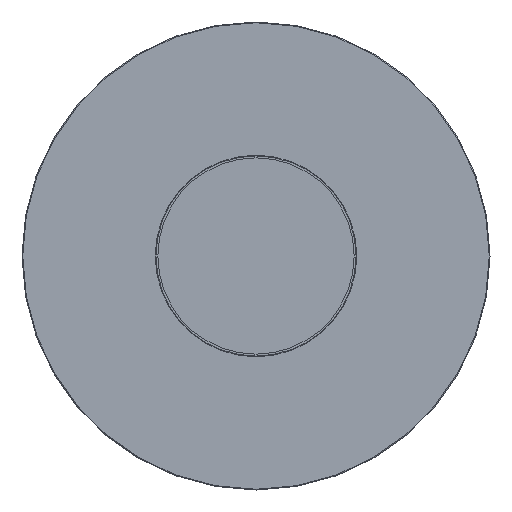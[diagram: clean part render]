
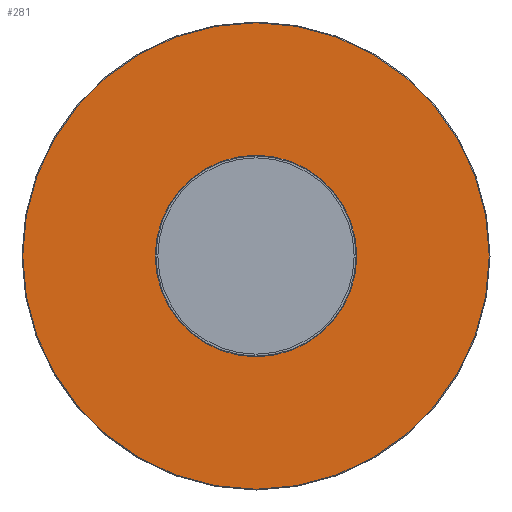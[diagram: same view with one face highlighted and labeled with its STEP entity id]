
A CAD part, front view. The second image highlights one B-rep face of the part: STEP entity #281.
In plain terms, the highlighted planar face has unit normal (0, -1, 0).
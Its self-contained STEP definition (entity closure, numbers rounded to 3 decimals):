
#110=CARTESIAN_POINT('',(0.,557.451,-19.75));
#111=VERTEX_POINT('',#110);
#112=CARTESIAN_POINT('',(0.,557.451,0.));
#113=DIRECTION('',(0.0,1.0,0.0));
#114=DIRECTION('',(0.0,0.0,1.0));
#115=AXIS2_PLACEMENT_3D('',#112,#113,#114);
#116=CIRCLE('',#115,19.75);
#117=EDGE_CURVE('',#111,#111,#116,.T.);
#258=CARTESIAN_POINT('',(0.,557.451,-309.0));
#259=VERTEX_POINT('',#258);
#260=CARTESIAN_POINT('',(0.,557.451,0.));
#261=DIRECTION('',(0.0,1.0,0.0));
#262=DIRECTION('',(0.0,0.0,1.0));
#263=AXIS2_PLACEMENT_3D('',#260,#261,#262);
#264=CIRCLE('',#263,309.0);
#265=EDGE_CURVE('',#259,#259,#264,.T.);
#270=CARTESIAN_POINT('',(0.,557.451,0.));
#271=DIRECTION('',(0.0,-1.0,0.0));
#272=DIRECTION('',(0.0,0.0,1.0));
#273=AXIS2_PLACEMENT_3D('',#270,#271,#272);
#274=PLANE('',#273);
#275=ORIENTED_EDGE('',*,*,#265,.F.);
#276=EDGE_LOOP('',(#275));
#277=FACE_OUTER_BOUND('',#276,.T.);
#278=ORIENTED_EDGE('',*,*,#117,.T.);
#279=EDGE_LOOP('',(#278));
#280=FACE_BOUND('',#279,.T.);
#281=ADVANCED_FACE('',(#277,#280),#274,.T.);
